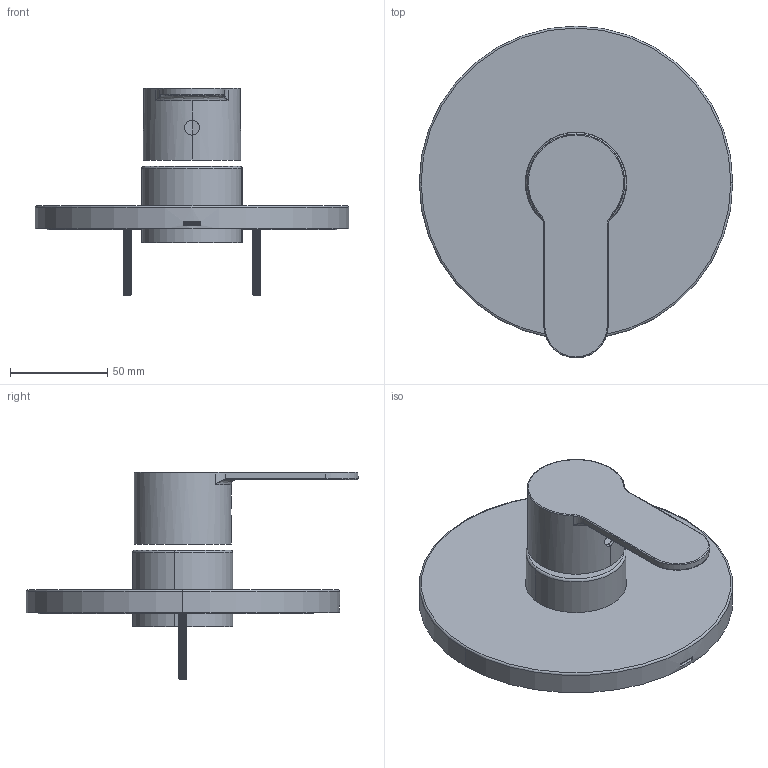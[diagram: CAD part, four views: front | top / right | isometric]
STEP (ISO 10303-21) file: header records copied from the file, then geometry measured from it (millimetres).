
FILE_DESCRIPTION (( 'STEP AP214' ), '1' );
FILE_NAME ('6790TRM.STEP', '2025-01-15T09:24:55', ( '' ), ( '' ), 'SwSTEP 2.0', 'SolidWorks 2023', '' );
FILE_SCHEMA (( 'AUTOMOTIVE_DESIGN' ));
Length unit declared in the file: inch
Products named in the file (1): 6790TRM
Bounding box: 161.04 x 170.52 x 106.82 mm (x, y, z)
Surface area: 108508.1 mm2 (no closed solid volume)
Topology: 0 solids, 94 shells, 969 faces, 2563 edges, 1652 vertices
Faces by surface type: cylinder 533, cone 222, plane 194, bspline 16, torus 4
Entity records: 40480 total; most frequent: CARTESIAN_POINT 17546, ORIENTED_EDGE 4662, DIRECTION 4556, EDGE_CURVE 2563, AXIS2_PLACEMENT_3D 1710, VERTEX_POINT 1652, LINE 1136, VECTOR 1136
